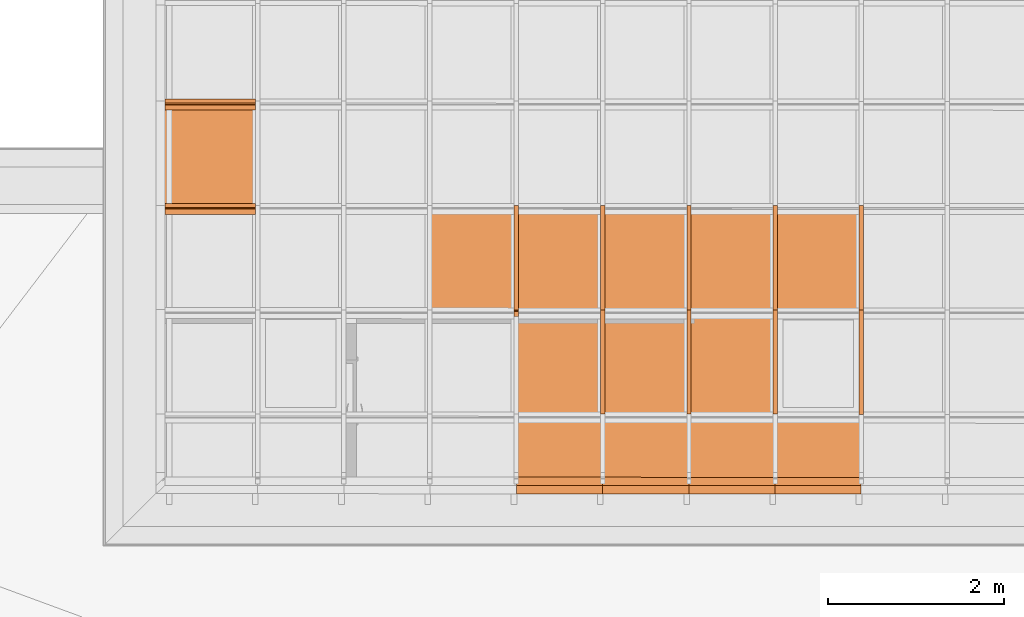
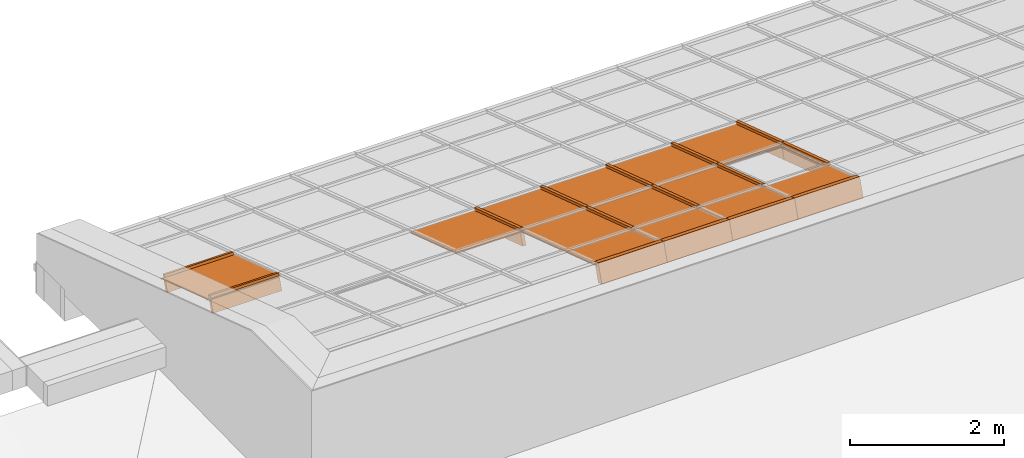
# One storey, part 31 of 47: 28 proxies, 1 element without a shape of its own.
"""IFC2X3 building model written with IfcOpenShell, lengths in millimetres."""

from ifc_helpers import new_model, entity, si_unit, converted_unit, derived_unit, money_unit, direction, frame, origin_with_axes, place, context, subcontext, project, spatial, polyline, outline, extrude, material, material_list, type_object, element, aggregate, save


model = new_model("IFC2X3")

# Units and contexts
model_context = context("Model", 3, precision=1e-05, world=origin_with_axes(), true_north=direction((0.0, 1.0)))
body_context = subcontext(model_context, "Body", "Model", "MODEL_VIEW")
ifc_project = project(units=[si_unit("LENGTHUNIT", "METRE", prefix="MILLI"), si_unit("AREAUNIT", "SQUARE_METRE"), si_unit("VOLUMEUNIT", "CUBIC_METRE"), converted_unit("PLANEANGLEUNIT", "DEGREE", entity("IfcPlaneAngleMeasure", 0.0174532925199), si_unit("PLANEANGLEUNIT", "RADIAN"), dimensions=[0, 0, 0, 0, 0, 0, 0]), si_unit("SOLIDANGLEUNIT", "STERADIAN"), money_unit("EUR"), converted_unit("TIMEUNIT", "Year", entity("IfcTimeMeasure", 31556926.0), si_unit("TIMEUNIT", "SECOND"), dimensions=[0, 0, 1, 0, 0, 0, 0]), si_unit("MASSUNIT", "GRAM", prefix="KILO"), si_unit("THERMODYNAMICTEMPERATUREUNIT", "DEGREE_CELSIUS"), si_unit("LUMINOUSINTENSITYUNIT", "LUMEN"), si_unit("ENERGYUNIT", "JOULE", prefix="MEGA"), derived_unit("THERMALCONDUCTANCEUNIT", [(si_unit("POWERUNIT", "WATT"), 1), (si_unit("LENGTHUNIT", "METRE"), -1), (si_unit("THERMODYNAMICTEMPERATUREUNIT", "KELVIN"), -1)]), derived_unit("SPECIFICHEATCAPACITYUNIT", [(si_unit("ENERGYUNIT", "JOULE"), 1), (si_unit("MASSUNIT", "GRAM", prefix="KILO"), -1), (si_unit("THERMODYNAMICTEMPERATUREUNIT", "KELVIN"), -1)]), derived_unit("MASSDENSITYUNIT", [(si_unit("MASSUNIT", "GRAM", prefix="KILO"), 1), (si_unit("VOLUMEUNIT", "CUBIC_METRE"), -1)])], contexts=[model_context])

# Site, building, storey
site_placement = place(None, origin_with_axes())
site = spatial("IfcSite", under=ifc_project, at=site_placement, Name="Site", CompositionType="ELEMENT")
building_placement = place(site_placement, origin_with_axes())
building = spatial("IfcBuilding", under=site, at=building_placement, Name="Building", CompositionType="ELEMENT")
storey_placement = place(building_placement, frame((0.0, 0.0, 6000.0), z_axis=(0.0, 0.0, 1.0), x_axis=(1.0, 0.0, 0.0)))
storey = spatial("IfcBuildingStorey", under=building, at=storey_placement, Name="KATUSEPLAAN", CompositionType="ELEMENT", Elevation=6000.0)

# Curtain wall, proxies
curtain_wall_type = type_object("IfcCurtainWallType", Name="KK-2", PredefinedType="NOTDEFINED")
curtain_wall_placement = place(storey_placement, frame((71638.1505463, 41358.6055567, 722.550081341), z_axis=(0.0, 0.0, 1.0), x_axis=(1.0, 0.0, 0.0)))
curtain_wall = element("IfcCurtainWall", 1, at=curtain_wall_placement, inside=storey, type_object=curtain_wall_type, Name="Talveaja klaaskatus")
ifc_material_1 = material(Name="Alumiinium (1)")
ifc_material_list = material_list([ifc_material_1, ifc_material_1])
building_element_proxy_type_1 = type_object("IfcBuildingElementProxyType", Name="Frame-Mll-588", PredefinedType="NOTDEFINED")
proxy_1_placement = place(curtain_wall_placement, frame((-3435.99854385, 2852.71260145, 1045.75100126), z_axis=(0.0, -0.950019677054, 0.312190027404), x_axis=(-0.999999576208, 0.000287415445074, 0.000874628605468)))
proxy_1 = element("IfcBuildingElementProxy", 2, at=proxy_1_placement, type_object=building_element_proxy_type_1, material=ifc_material_list, Name="Alumiinium (1);  Objekti nimi: Frame 22", context=body_context, shape_type="SweptSolid", body=[
    extrude(outline(polyline([(25.0091958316, 9.97697969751), (25.1841179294, 199.976899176), (-24.8158608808, 200.022931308), (-24.9907829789, 10.0230118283), (25.0091958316, 9.97697969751)])), frame((0.0, 4.54747350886e-10, -2.72848410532e-09), z_axis=(0.0, 0.0, 1.0), x_axis=(0.999999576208, 0.000920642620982, 0.0)), (0.0, 0.0, 1.0), 1250.0),
    extrude(outline(polyline([(-25.0091958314, -9.9769796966), (-25.0460215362, -49.976962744), (24.9539572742, -50.0229948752), (24.990782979, -10.0230118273), (-25.0091958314, -9.9769796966)])), frame((0.0, 4.54747350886e-10, -2.72848410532e-09), z_axis=(0.0, 0.0, 1.0), x_axis=(0.999999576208, 0.000920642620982, 0.0)), (0.0, 0.0, 1.0), 1250.0),
])
ifc_material_2 = material(Name="Klaas")
building_element_proxy_type_2 = type_object("IfcBuildingElementProxyType", Name="Panel-Main-223", PredefinedType="NOTDEFINED")
proxy_2_placement = place(curtain_wall_placement, frame((0.0, 0.0, 1979.86333452), z_axis=(0.0, 0.0, 1.0), x_axis=(-0.999995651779, 0.00294896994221, 0.0)))
proxy_2 = element("IfcBuildingElementProxy", 3, at=proxy_2_placement, type_object=building_element_proxy_type_2, material=ifc_material_2, Name="Klaas;  Objekti nimi: Built-in CW Panel", context=body_context, shape_type="SweptSolid", body=[
    extrude(outline(polyline([(494.147754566, -304.892907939), (496.403760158, 500.364911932), (491.403790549, 500.378899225), (491.417792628, 505.378898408), (-488.578350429, 508.124444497), (-488.59238208, 503.124474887), (-493.592336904, 503.138462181), (-495.848357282, -302.119357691), (-490.848372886, -302.133359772), (-490.792349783, -282.133422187), (489.20380806, -284.878968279), (489.147770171, -304.878905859), (494.147754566, -304.892907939)])), frame((0.0, -3.12191252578, 9.50019274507), z_axis=(0.0, 0.312191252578, -0.950019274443), x_axis=(1.0, 0.0, 0.0)), (0.0, 0.0, 1.0), 20.0000000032),
])
building_element_proxy_type_3 = type_object("IfcBuildingElementProxyType", Name="Panel-Dist-148", PredefinedType="NOTDEFINED")
proxy_3_placement = place(curtain_wall_placement, frame((-979.999584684, 2258.24441095, 1238.72168054), z_axis=(0.0, 0.0, 1.0), x_axis=(-0.999995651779, 0.00294896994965, 0.0)))
proxy_3 = element("IfcBuildingElementProxy", 4, at=proxy_3_placement, type_object=building_element_proxy_type_3, material=ifc_material_2, Name="Klaas;  Objekti nimi: Built-in CW Panel", context=body_context, shape_type="SweptSolid", body=[
    extrude(outline(polyline([(488.233079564, -631.370301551), (488.247078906, -626.370316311), (493.247082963, -626.384315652), (496.749044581, 623.610771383), (491.749059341, 623.624770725), (491.763077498, 628.624755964), (-488.233088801, 631.37030155), (-488.247088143, 626.370335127), (-493.247073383, 626.384334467), (-496.749035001, -623.610771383), (-491.749049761, -623.624770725), (-491.763067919, -628.624737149), (488.233079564, -631.370301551)])), frame((2.27373675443e-10, -3.12191252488, 9.50019274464), z_axis=(0.0, 0.312191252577, -0.950019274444), x_axis=(1.0, 0.0, 0.0)), (0.0, 0.0, 1.0), 20.0000000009),
])
building_element_proxy_type_4 = type_object("IfcBuildingElementProxyType", Name="Panel-Main-226", PredefinedType="NOTDEFINED")
proxy_4_placement = place(curtain_wall_placement, frame((-2944.49875215, 0.846294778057, 1982.43867845), z_axis=(0.0, 0.0, 1.0), x_axis=(-0.999995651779, 0.00294896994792, 0.0)))
proxy_4 = element("IfcBuildingElementProxy", 5, at=proxy_4_placement, type_object=building_element_proxy_type_4, material=ifc_material_2, Name="Klaas;  Objekti nimi: Built-in CW Panel", context=body_context, shape_type="SweptSolid", body=[
    extrude(outline(polyline([(495.647749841, -304.897103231), (497.903754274, 500.360706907), (492.903779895, 500.37470683), (492.917779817, 505.37469604), (-490.078357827, 508.128646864), (-490.092357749, 503.128672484), (-495.092346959, 503.142687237), (-497.348351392, -302.115152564), (-492.348377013, -302.129152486), (-492.292332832, -282.129225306), (490.703804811, -284.88319096), (490.647775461, -304.883103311), (495.647749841, -304.897103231)])), frame((0.0, -3.12191252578, 9.50019274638), z_axis=(0.0, 0.312191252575, -0.950019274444), x_axis=(1.0, 0.0, 0.0)), (0.0, 0.0, 1.0), 20.0000000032),
])
building_element_proxy_type_5 = type_object("IfcBuildingElementProxyType", Name="Panel-Dist-147", PredefinedType="NOTDEFINED")
proxy_5_placement = place(curtain_wall_placement, frame((-2944.49875215, 2258.8090386, 1240.43988843), z_axis=(0.0, 0.0, 1.0), x_axis=(-0.999995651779, 0.0029489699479, 0.0)))
proxy_5 = element("IfcBuildingElementProxy", 6, at=proxy_5_placement, type_object=building_element_proxy_type_5, material=ifc_material_2, Name="Klaas;  Objekti nimi: Built-in CW Panel", context=body_context, shape_type="SweptSolid", body=[
    extrude(outline(polyline([(489.733073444, -631.37450392), (489.747091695, -626.374523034), (494.747072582, -626.388522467), (498.249038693, 623.606567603), (493.249057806, 623.620567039), (493.263057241, 628.620547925), (-489.733083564, 631.374503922), (-489.747101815, 626.374523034), (-494.747082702, 626.388522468), (-498.249048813, -623.606567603), (-493.249067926, -623.620567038), (-493.26306736, -628.620547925), (489.733073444, -631.37450392)])), frame((0.0, -3.12191252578, 9.50019274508), z_axis=(0.0, 0.312191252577, -0.950019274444), x_axis=(1.0, 0.0, 0.0)), (0.0, 0.0, 1.0), 20.0000000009),
])
building_element_proxy_type_6 = type_object("IfcBuildingElementProxyType", Name="Panel-Main-169", PredefinedType="NOTDEFINED")
proxy_6_placement = place(curtain_wall_placement, frame((-979.999584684, 1070.71981464, 1628.95921479), z_axis=(0.0, 0.0, 1.0), x_axis=(-0.999995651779, 0.00294896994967, 0.0)))
proxy_6 = element("IfcBuildingElementProxy", 7, at=proxy_6_placement, type_object=building_element_proxy_type_6, material=ifc_material_2, Name="Klaas;  Objekti nimi: Built-in CW Panel", context=body_context, shape_type="SweptSolid", body=[
    extrude(outline(polyline([(488.233079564, -631.370301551), (488.247097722, -626.37031631), (493.247064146, -626.384334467), (496.749044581, 623.610771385), (491.74905934, 623.624770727), (491.763077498, 628.624755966), (-488.233069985, 631.370301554), (-488.247088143, 626.370316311), (-493.247073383, 626.384315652), (-496.749035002, -623.610752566), (-491.749049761, -623.624770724), (-491.763067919, -628.624755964), (488.233079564, -631.370301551)])), frame((0.0, -3.12191252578, 9.50019274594), z_axis=(0.0, 0.312191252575, -0.950019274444), x_axis=(1.0, 0.0, 0.0)), (0.0, 0.0, 1.0), 20.0000000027),
])
building_element_proxy_type_7 = type_object("IfcBuildingElementProxyType", Name="Panel-Main-171", PredefinedType="NOTDEFINED")
proxy_7_placement = place(curtain_wall_placement, frame((-2944.49875215, 1071.28444228, 1630.67742269), z_axis=(0.0, 0.0, 1.0), x_axis=(-0.999995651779, 0.0029489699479, 0.0)))
proxy_7 = element("IfcBuildingElementProxy", 8, at=proxy_7_placement, type_object=building_element_proxy_type_7, material=ifc_material_2, Name="Klaas;  Objekti nimi: Built-in CW Panel", context=body_context, shape_type="SweptSolid", body=[
    extrude(outline(polyline([(489.733073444, -631.37450392), (489.747091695, -626.374523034), (494.747072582, -626.388522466), (498.249038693, 623.606567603), (493.249057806, 623.620567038), (493.263057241, 628.620547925), (-489.733083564, 631.374503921), (-489.747101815, 626.374523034), (-494.747082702, 626.388522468), (-498.249048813, -623.606567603), (-493.249067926, -623.620567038), (-493.26306736, -628.620547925), (489.733073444, -631.37450392)])), frame((0.0, -3.12191252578, 9.50019274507), z_axis=(0.0, 0.312191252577, -0.950019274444), x_axis=(1.0, 0.0, 0.0)), (0.0, 0.0, 1.0), 20.0000000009),
])
building_element_proxy_type_8 = type_object("IfcBuildingElementProxyType", Name="Panel-Main-135", PredefinedType="NOTDEFINED")
proxy_8_placement = place(curtain_wall_placement, frame((-6931.87656995, 3447.47966937, 853.689830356), z_axis=(0.0, 0.0, 1.0), x_axis=(-0.999995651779, 0.00294896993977, 0.0)))
proxy_8 = element("IfcBuildingElementProxy", 9, at=proxy_8_placement, type_object=building_element_proxy_type_8, material=ifc_material_2, Name="Klaas;  Objekti nimi: Built-in CW Panel", context=body_context, shape_type="SweptSolid", body=[
    extrude(outline(polyline([(551.112347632, -631.546463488), (551.12635088, -626.546475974), (531.126419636, -626.49044416), (534.628417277, 623.504646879), (554.628329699, 623.448615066), (554.642332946, 628.448583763), (-551.11234458, 631.546463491), (-551.126347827, 626.546494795), (-556.126316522, 626.560498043), (-559.628314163, -623.434611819), (-554.628326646, -623.448615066), (-554.642329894, -628.448583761), (551.112347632, -631.546463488)])), frame((0.0, -3.12191252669, 9.50019274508), z_axis=(0.0, 0.312191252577, -0.950019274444), x_axis=(1.0, 0.0, 0.0)), (0.0, 0.0, 1.0), 20.0000000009),
])
building_element_proxy_type_9 = type_object("IfcBuildingElementProxyType", Name="Panel-Main-170", PredefinedType="NOTDEFINED")
proxy_9_placement = place(curtain_wall_placement, frame((-1961.49916873, 1071.0019129, 1629.81766277), z_axis=(0.0, 0.0, 1.0), x_axis=(-0.999995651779, 0.0029489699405, 0.0)))
proxy_9 = element("IfcBuildingElementProxy", 10, at=proxy_9_placement, type_object=building_element_proxy_type_9, material=ifc_material_2, Name="Klaas;  Objekti nimi: Built-in CW Panel", context=body_context, shape_type="SweptSolid", body=[
    extrude(outline(polyline([(489.73307344, -631.374503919), (489.747072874, -626.374523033), (494.747072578, -626.388522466), (498.249038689, 623.606567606), (493.249057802, 623.620567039), (493.263057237, 628.620547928), (-489.733083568, 631.374503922), (-489.747083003, 626.374523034), (-494.747045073, 626.38852247), (-498.249030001, -623.606567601), (-493.249049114, -623.620585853), (-493.263067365, -628.620547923), (489.73307344, -631.374503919)])), frame((0.0, -3.1219125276, 9.50019274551), z_axis=(0.0, 0.312191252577, -0.950019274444), x_axis=(1.0, 0.0, 0.0)), (0.0, 0.0, 1.0), 20.0000000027),
])
building_element_proxy_type_10 = type_object("IfcBuildingElementProxyType", Name="Panel-Main-181", PredefinedType="NOTDEFINED")
proxy_10_placement = place(curtain_wall_placement, frame((0.0, 2257.96274382, 1237.8645445), z_axis=(0.0, 0.0, 1.0), x_axis=(-0.999995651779, 0.00294896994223, 0.0)))
proxy_10 = element("IfcBuildingElementProxy", 11, at=proxy_10_placement, type_object=building_element_proxy_type_10, material=ifc_material_2, Name="Klaas;  Objekti nimi: Built-in CW Panel", context=body_context, shape_type="SweptSolid", body=[
    extrude(outline(polyline([(488.23307956, -631.370301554), (488.247097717, -626.370316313), (493.247064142, -626.38433447), (496.749044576, 623.610771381), (491.749059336, 623.624770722), (491.763077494, 628.624755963), (-488.233069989, 631.37030155), (-488.247088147, 626.370316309), (-493.247073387, 626.38431565), (-496.749035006, -623.610752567), (-491.749049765, -623.624770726), (-491.763067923, -628.624755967), (488.23307956, -631.370301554)])), frame((0.0, -3.12191252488, 9.50019274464), z_axis=(0.0, 0.312191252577, -0.950019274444), x_axis=(1.0, 0.0, 0.0)), (0.0, 0.0, 1.0), 20.0000000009),
])
building_element_proxy_type_11 = type_object("IfcBuildingElementProxyType", Name="Panel-Main-105", PredefinedType="NOTDEFINED")
proxy_11_placement = place(curtain_wall_placement, frame((-1961.49916873, 2258.52650921, 1239.58012851), z_axis=(0.0, 0.0, 1.0), x_axis=(-0.999995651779, 0.0029489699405, 0.0)))
proxy_11 = element("IfcBuildingElementProxy", 12, at=proxy_11_placement, type_object=building_element_proxy_type_11, material=ifc_material_2, Name="Klaas;  Objekti nimi: Built-in CW Panel", context=body_context, shape_type="SweptSolid", body=[
    extrude(outline(polyline([(489.73307344, -631.374503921), (489.747072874, -626.374523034), (494.747072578, -626.388522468), (498.249038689, 623.606567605), (493.249057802, 623.620567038), (493.263057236, 628.620547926), (-489.733083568, 631.374503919), (-489.747083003, 626.374523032), (-494.747045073, 626.388522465), (-498.249030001, -623.606567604), (-493.249049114, -623.620585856), (-493.263067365, -628.620547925), (489.73307344, -631.374503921)])), frame((0.0, -3.12191252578, 9.50019274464), z_axis=(0.0, 0.312191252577, -0.950019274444), x_axis=(1.0, 0.0, 0.0)), (0.0, 0.0, 1.0), 20.0000000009),
])
building_element_proxy_type_12 = type_object("IfcBuildingElementProxyType", Name="Panel-Main-104", PredefinedType="NOTDEFINED")
proxy_12_placement = place(curtain_wall_placement, frame((-3927.49833556, 2259.09156798, 1241.29964835), z_axis=(0.0, 0.0, 1.0), x_axis=(-0.999995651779, 0.00294896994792, 0.0)))
proxy_12 = element("IfcBuildingElementProxy", 13, at=proxy_12_placement, type_object=building_element_proxy_type_12, material=ifc_material_2, Name="Klaas;  Objekti nimi: Built-in CW Panel", context=body_context, shape_type="SweptSolid", body=[
    extrude(outline(polyline([(489.733073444, -631.374503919), (489.747072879, -626.374523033), (494.747072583, -626.388522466), (498.249038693, 623.606567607), (493.249057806, 623.620567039), (493.263057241, 628.620547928), (-489.733083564, 631.374503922), (-489.747082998, 626.374523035), (-494.747045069, 626.388522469), (-498.249029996, -623.606567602), (-493.249049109, -623.620585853), (-493.26306736, -628.620547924), (489.733073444, -631.374503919)])), frame((1.13686837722e-10, -3.12191252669, 9.50019274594), z_axis=(0.0, 0.312191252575, -0.950019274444), x_axis=(1.0, 0.0, 0.0)), (0.0, 0.0, 1.0), 20.0000000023),
])
building_element_proxy_type_13 = type_object("IfcBuildingElementProxyType", Name="Panel-Main-225", PredefinedType="NOTDEFINED")
proxy_13_placement = place(curtain_wall_placement, frame((-1961.49916873, 0.563765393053, 1981.57891853), z_axis=(0.0, 0.0, 1.0), x_axis=(-0.999995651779, 0.00294896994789, 0.0)))
proxy_13 = element("IfcBuildingElementProxy", 14, at=proxy_13_placement, type_object=building_element_proxy_type_13, material=ifc_material_2, Name="Klaas;  Objekti nimi: Built-in CW Panel", context=body_context, shape_type="SweptSolid", body=[
    extrude(outline(polyline([(495.647749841, -304.897118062), (497.903754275, 500.360706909), (492.903779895, 500.37470683), (492.917779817, 505.374696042), (-490.078357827, 508.128646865), (-490.092372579, 503.128657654), (-495.092346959, 503.142672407), (-497.348351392, -302.115137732), (-492.348377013, -302.129152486), (-492.292332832, -282.129240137), (490.703789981, -284.88319096), (490.647775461, -304.883103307), (495.647749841, -304.897118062)])), frame((1.13686837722e-10, -3.12191252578, 9.50019274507), z_axis=(0.0, 0.312191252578, -0.950019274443), x_axis=(1.0, 0.0, 0.0)), (0.0, 0.0, 1.0), 20.0000000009),
])
building_element_proxy_type_14 = type_object("IfcBuildingElementProxyType", Name="Panel-Main-224", PredefinedType="NOTDEFINED")
proxy_14_placement = place(curtain_wall_placement, frame((-979.999584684, 0.281667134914, 1980.72047056), z_axis=(0.0, 0.0, 1.0), x_axis=(-0.999995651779, 0.00294896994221, 0.0)))
proxy_14 = element("IfcBuildingElementProxy", 15, at=proxy_14_placement, type_object=building_element_proxy_type_14, material=ifc_material_2, Name="Klaas;  Objekti nimi: Built-in CW Panel", context=body_context, shape_type="SweptSolid", body=[
    extrude(outline(polyline([(494.147754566, -304.892907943), (496.403760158, 500.364911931), (491.403790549, 500.378899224), (491.417792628, 505.378898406), (-488.57835043, 508.124444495), (-488.592382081, 503.124474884), (-493.592336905, 503.138462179), (-495.848357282, -302.119357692), (-490.848372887, -302.133359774), (-490.792349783, -282.133422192), (489.203808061, -284.878968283), (489.147770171, -304.878905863), (494.147754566, -304.892907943)])), frame((0.0, -3.12191252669, 9.50019274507), z_axis=(0.0, 0.312191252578, -0.950019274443), x_axis=(1.0, 0.0, 0.0)), (0.0, 0.0, 1.0), 20.0000000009),
])
building_element_proxy_type_15 = type_object("IfcBuildingElementProxyType", Name="Frame-Mll-591", PredefinedType="NOTDEFINED")
proxy_15_placement = place(curtain_wall_placement, frame((-489.999792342, 2851.86587554, 1043.17434539), z_axis=(0.0, -0.950019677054, 0.312190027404), x_axis=(-0.999999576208, 0.000287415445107, 0.00087462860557)))
proxy_15 = element("IfcBuildingElementProxy", 16, at=proxy_15_placement, type_object=building_element_proxy_type_15, material=ifc_material_list, Name="Alumiinium (1);  Objekti nimi: Frame 22", context=body_context, shape_type="SweptSolid", body=[
    extrude(outline(polyline([(25.0091958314, 9.9769796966), (25.1841179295, 199.976899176), (-24.8158608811, 200.022931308), (-24.9907829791, 10.0230118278), (25.0091958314, 9.9769796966)])), frame((0.0, 0.0, -1.81898940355e-09), z_axis=(0.0, 0.0, 1.0), x_axis=(0.999999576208, 0.00092064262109, 0.0)), (0.0, 0.0, 1.0), 1250.0),
    extrude(outline(polyline([(-25.0091958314, -9.9769796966), (-25.0460215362, -49.9769627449), (24.9539572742, -50.0229948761), (24.9907829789, -10.0230118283), (-25.0091958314, -9.9769796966)])), frame((0.0, 0.0, -1.81898940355e-09), z_axis=(0.0, 0.0, 1.0), x_axis=(0.999999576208, 0.00092064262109, 0.0)), (0.0, 0.0, 1.0), 1250.0),
])
building_element_proxy_type_16 = type_object("IfcBuildingElementProxyType", Name="Frame-Mll-590", PredefinedType="NOTDEFINED")
proxy_16_placement = place(curtain_wall_placement, frame((-1469.99937703, 2852.14754268, 1044.03148143), z_axis=(0.0, -0.950019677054, 0.312190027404), x_axis=(-0.999999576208, 0.000287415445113, 0.000874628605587)))
proxy_16 = element("IfcBuildingElementProxy", 17, at=proxy_16_placement, type_object=building_element_proxy_type_16, material=ifc_material_list, Name="Alumiinium (1);  Objekti nimi: Frame 22", context=body_context, shape_type="SweptSolid", body=[
    extrude(outline(polyline([(25.0091958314, 9.9769796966), (25.1841179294, 199.976899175), (-24.8158608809, 200.022931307), (-24.990782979, 10.0230118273), (25.0091958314, 9.9769796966)])), frame((0.0, 0.0, 0.0), z_axis=(0.0, 0.0, 1.0), x_axis=(0.999999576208, 0.000920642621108, 0.0)), (0.0, 0.0, 1.0), 1250.0),
    extrude(outline(polyline([(-25.0091958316, -9.97697969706), (-25.0460215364, -49.9769627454), (24.9539572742, -50.0229948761), (24.9907829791, -10.0230118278), (-25.0091958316, -9.97697969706)])), frame((0.0, 0.0, 0.0), z_axis=(0.0, 0.0, 1.0), x_axis=(0.999999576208, 0.000920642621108, 0.0)), (0.0, 0.0, 1.0), 1250.0),
])
building_element_proxy_type_17 = type_object("IfcBuildingElementProxyType", Name="Frame-Mll-592", PredefinedType="NOTDEFINED")
proxy_17_placement = place(curtain_wall_placement, frame((489.999792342, 2851.58420841, 1042.31720936), z_axis=(0.0, -0.950019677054, 0.312190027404), x_axis=(-0.999999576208, 0.000287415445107, 0.00087462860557)))
proxy_17 = element("IfcBuildingElementProxy", 18, at=proxy_17_placement, type_object=building_element_proxy_type_17, material=ifc_material_list, Name="Alumiinium (1);  Objekti nimi: Frame 22", context=body_context, shape_type="SweptSolid", body=[
    extrude(outline(polyline([(25.0091958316, 9.9769796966), (25.1841179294, 199.976899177), (-24.8158608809, 200.022931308), (-24.990782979, 10.0230118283), (25.0091958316, 9.9769796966)])), frame((0.0, 4.54747350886e-10, -2.72848410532e-09), z_axis=(0.0, 0.0, 1.0), x_axis=(0.999999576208, 0.00092064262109, 0.0)), (0.0, 0.0, 1.0), 1250.0),
    extrude(outline(polyline([(-25.0091958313, -9.9769796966), (-25.0460215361, -49.9769627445), (24.9539572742, -50.0229948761), (24.990782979, -10.0230118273), (-25.0091958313, -9.9769796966)])), frame((0.0, 0.0, -1.81898940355e-09), z_axis=(0.0, 0.0, 1.0), x_axis=(0.999999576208, 0.00092064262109, 0.0)), (0.0, 0.0, 1.0), 1250.0),
])
building_element_proxy_type_18 = type_object("IfcBuildingElementProxyType", Name="Frame-Mll-589", PredefinedType="NOTDEFINED")
proxy_18_placement = place(curtain_wall_placement, frame((-2452.99896044, 2852.43007206, 1044.89124135), z_axis=(0.0, -0.950019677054, 0.312190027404), x_axis=(-0.999999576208, 0.000287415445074, 0.000874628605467)))
proxy_18 = element("IfcBuildingElementProxy", 19, at=proxy_18_placement, type_object=building_element_proxy_type_18, material=ifc_material_list, Name="Alumiinium (1);  Objekti nimi: Frame 22", context=body_context, shape_type="SweptSolid", body=[
    extrude(outline(polyline([(25.0091958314, 9.9769796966), (25.1841179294, 199.976899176), (-24.8158608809, 200.022931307), (-24.990782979, 10.0230118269), (25.0091958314, 9.9769796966)])), frame((0.0, -4.54747350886e-10, -1.81898940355e-09), z_axis=(0.0, 0.0, 1.0), x_axis=(0.999999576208, 0.000920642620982, 0.0)), (0.0, 0.0, 1.0), 1250.0),
    extrude(outline(polyline([(-25.0091958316, -9.97697969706), (-25.0460215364, -49.9769627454), (24.9539572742, -50.0229948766), (24.9907829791, -10.0230118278), (-25.0091958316, -9.97697969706)])), frame((0.0, -4.54747350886e-10, -1.81898940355e-09), z_axis=(0.0, 0.0, 1.0), x_axis=(0.999999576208, 0.000920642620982, 0.0)), (0.0, 0.0, 1.0), 1250.0),
])
building_element_proxy_type_19 = type_object("IfcBuildingElementProxyType", Name="Frame-Trs-195", PredefinedType="NOTDEFINED")
proxy_19_placement = place(curtain_wall_placement, frame((-7484.75584326, 4041.40087363, 659.054627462), z_axis=(0.999999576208, -0.000287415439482, -0.000874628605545), x_axis=(0.0, -0.950019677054, 0.312190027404)))
proxy_19 = element("IfcBuildingElementProxy", 20, at=proxy_19_placement, type_object=building_element_proxy_type_19, material=ifc_material_list, Name="Alumiinium (1);  Objekti nimi: Frame 22", context=body_context, shape_type="SweptSolid", body=[
    extrude(outline(polyline([(26.8723924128, 1.69544270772), (86.1885203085, 182.199173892), (38.6875384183, 197.808681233), (-20.6285894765, 17.3049500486), (26.8723924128, 1.69544270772)])), frame((0.0, 0.0, 50.0000000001), z_axis=(0.0, 0.0, 1.0), x_axis=(0.950019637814, 0.312190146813, 0.0)), (0.0, 0.0, 1.0), 1030.75901524),
    extrude(outline(polyline([(-26.8723924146, -1.69544270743), (-39.3599982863, -39.6962282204), (8.14098360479, -55.3057355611), (20.6285894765, -17.3049500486), (-26.8723924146, -1.69544270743)])), frame((0.0, 0.0, 49.9999999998), z_axis=(0.0, 0.0, 1.0), x_axis=(0.950019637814, 0.312190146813, 0.0)), (0.0, 0.0, 1.0), 1030.75901524),
])
building_element_proxy_type_20 = type_object("IfcBuildingElementProxyType", Name="Frame-Trs-266", PredefinedType="NOTDEFINED")
proxy_20_placement = place(curtain_wall_placement, frame((-7484.75584326, 2853.87627732, 1049.29216172), z_axis=(0.999999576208, -0.000287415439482, -0.000874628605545), x_axis=(0.0, -0.950019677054, 0.312190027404)))
proxy_20 = element("IfcBuildingElementProxy", 21, at=proxy_20_placement, type_object=building_element_proxy_type_20, material=ifc_material_list, Name="Alumiinium (1);  Objekti nimi: Frame 22", context=body_context, shape_type="SweptSolid", body=[
    extrude(outline(polyline([(26.8723924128, 1.69544270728), (86.1885203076, 182.199173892), (38.6875384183, 197.808681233), (-20.6285894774, 17.3049500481), (26.8723924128, 1.69544270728)])), frame((0.0, -4.54747350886e-10, 49.9999999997), z_axis=(0.0, 0.0, 1.0), x_axis=(0.950019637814, 0.312190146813, 0.0)), (0.0, 0.0, 1.0), 1030.75901524),
    extrude(outline(polyline([(-26.8723924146, -1.69544270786), (-39.3599982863, -39.6962282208), (8.14098360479, -55.3057355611), (20.6285894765, -17.3049500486), (-26.8723924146, -1.69544270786)])), frame((0.0, -4.54747350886e-10, 49.9999999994), z_axis=(0.0, 0.0, 1.0), x_axis=(0.950019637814, 0.312190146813, 0.0)), (0.0, 0.0, 1.0), 1030.75901524),
])
building_element_proxy_type_21 = type_object("IfcBuildingElementProxyType", Name="Frame-Mll-057", PredefinedType="NOTDEFINED")
proxy_21_placement = place(curtain_wall_placement, frame((-1469.99937703, 1664.62294637, 1434.26901568), z_axis=(0.0, -0.950019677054, 0.312190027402), x_axis=(-0.999999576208, 0.000287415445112, 0.000874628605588)))
proxy_21 = element("IfcBuildingElementProxy", 22, at=proxy_21_placement, type_object=building_element_proxy_type_21, material=ifc_material_list, Name="Alumiinium (1);  Objekti nimi: Frame 22", context=body_context, shape_type="SweptSolid", body=[
    extrude(outline(polyline([(25.0091958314, 9.97697969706), (25.1841179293, 199.976899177), (-24.8158608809, 200.022931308), (-24.990782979, 10.0230118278), (25.0091958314, 9.97697969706)])), frame((0.0, 0.0, -2.72848410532e-09), z_axis=(0.0, 0.0, 1.0), x_axis=(0.999999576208, 0.000920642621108, 0.0)), (0.0, 0.0, 1.0), 1250.00000001),
    extrude(outline(polyline([(-25.0091958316, -9.97697969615), (-25.0460215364, -49.9769627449), (24.9539572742, -50.0229948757), (24.9907829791, -10.0230118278), (-25.0091958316, -9.97697969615)])), frame((0.0, 0.0, -2.72848410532e-09), z_axis=(0.0, 0.0, 1.0), x_axis=(0.999999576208, 0.000920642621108, 0.0)), (0.0, 0.0, 1.0), 1250.00000001),
])
building_element_proxy_type_22 = type_object("IfcBuildingElementProxyType", Name="Frame-Mll-056", PredefinedType="NOTDEFINED")
proxy_22_placement = place(curtain_wall_placement, frame((-2452.99896044, 1664.90547574, 1435.1287756), z_axis=(0.0, -0.950019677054, 0.312190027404), x_axis=(-0.999999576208, 0.000287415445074, 0.000874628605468)))
proxy_22 = element("IfcBuildingElementProxy", 23, at=proxy_22_placement, type_object=building_element_proxy_type_22, material=ifc_material_list, Name="Alumiinium (1);  Objekti nimi: Frame 22", context=body_context, shape_type="SweptSolid", body=[
    extrude(outline(polyline([(25.0091958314, 9.9769796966), (25.1841179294, 199.976899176), (-24.8158608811, 200.022931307), (-24.9907829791, 10.0230118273), (25.0091958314, 9.9769796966)])), frame((0.0, -4.54747350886e-10, -1.81898940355e-09), z_axis=(0.0, 0.0, 1.0), x_axis=(0.999999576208, 0.000920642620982, 0.0)), (0.0, 0.0, 1.0), 1250.0),
    extrude(outline(polyline([(-25.0091958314, -9.97697969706), (-25.0460215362, -49.9769627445), (24.9539572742, -50.0229948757), (24.990782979, -10.0230118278), (-25.0091958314, -9.97697969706)])), frame((0.0, 0.0, -9.09494701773e-10), z_axis=(0.0, 0.0, 1.0), x_axis=(0.999999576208, 0.000920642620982, 0.0)), (0.0, 0.0, 1.0), 1250.0),
])
building_element_proxy_type_23 = type_object("IfcBuildingElementProxyType", Name="Frame-Mll-058", PredefinedType="NOTDEFINED")
proxy_23_placement = place(curtain_wall_placement, frame((-489.999792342, 1664.34127923, 1433.41187965), z_axis=(0.0, -0.950019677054, 0.312190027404), x_axis=(-0.999999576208, 0.000287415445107, 0.00087462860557)))
proxy_23 = element("IfcBuildingElementProxy", 24, at=proxy_23_placement, type_object=building_element_proxy_type_23, material=ifc_material_list, Name="Alumiinium (1);  Objekti nimi: Frame 22", context=body_context, shape_type="SweptSolid", body=[
    extrude(outline(polyline([(25.0091958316, 9.97697969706), (25.1841179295, 199.976899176), (-24.8158608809, 200.022931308), (-24.990782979, 10.0230118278), (25.0091958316, 9.97697969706)])), frame((0.0, 0.0, 0.0), z_axis=(0.0, 0.0, 1.0), x_axis=(0.999999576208, 0.00092064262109, 0.0)), (0.0, 0.0, 1.0), 1250.0),
    extrude(outline(polyline([(-25.0091958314, -9.97697969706), (-25.0460215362, -49.9769627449), (24.9539572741, -50.0229948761), (24.9907829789, -10.0230118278), (-25.0091958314, -9.97697969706)])), frame((0.0, 0.0, 0.0), z_axis=(0.0, 0.0, 1.0), x_axis=(0.999999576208, 0.00092064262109, 0.0)), (0.0, 0.0, 1.0), 1250.0),
])
building_element_proxy_type_24 = type_object("IfcBuildingElementProxyType", Name="Frame-Mll-059", PredefinedType="NOTDEFINED")
proxy_24_placement = place(curtain_wall_placement, frame((489.999792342, 1664.05961209, 1432.55474361), z_axis=(0.0, -0.950019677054, 0.312190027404), x_axis=(-0.999999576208, 0.000287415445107, 0.00087462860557)))
proxy_24 = element("IfcBuildingElementProxy", 25, at=proxy_24_placement, type_object=building_element_proxy_type_24, material=ifc_material_list, Name="Alumiinium (1);  Objekti nimi: Frame 22", context=body_context, shape_type="SweptSolid", body=[
    extrude(outline(polyline([(25.0091958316, 9.97697969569), (25.1841179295, 199.976899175), (-24.8158608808, 200.022931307), (-24.9907829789, 10.0230118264), (25.0091958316, 9.97697969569)])), frame((0.0, 0.0, 0.0), z_axis=(0.0, 0.0, 1.0), x_axis=(0.999999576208, 0.00092064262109, 0.0)), (0.0, 0.0, 1.0), 1250.0),
    extrude(outline(polyline([(-25.0091958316, -9.97697969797), (-25.0460215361, -49.9769627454), (24.9539572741, -50.0229948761), (24.990782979, -10.0230118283), (-25.0091958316, -9.97697969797)])), frame((0.0, -4.54747350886e-10, 1.81898940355e-09), z_axis=(0.0, 0.0, 1.0), x_axis=(0.999999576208, 0.00092064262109, 0.0)), (0.0, 0.0, 1.0), 1250.0),
])
building_element_proxy_type_25 = type_object("IfcBuildingElementProxyType", Name="Frame-Bnd-656", PredefinedType="NOTDEFINED")
proxy_25_placement = place(curtain_wall_placement, frame((489.999792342, -288.47875832, 2074.1867246), z_axis=(-0.999999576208, 0.00028741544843, 0.000874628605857), x_axis=(0.0, 0.950019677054, -0.312190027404)))
proxy_25 = element("IfcBuildingElementProxy", 26, at=proxy_25_placement, type_object=building_element_proxy_type_25, material=ifc_material_1, Name="Alumiinium (1);  Objekti nimi: Built-in Frame", context=body_context, shape_type="SweptSolid", body=[
    extrude(outline(polyline([(15.8784912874, 15.7439993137), (44.3790804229, 25.1097037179), (-30.5465548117, 253.114416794), (-125.548518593, 221.895402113), (-31.8914745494, -63.1104892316), (63.1104892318, -31.8914745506), (50.6228833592, 6.10931096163), (22.1222942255, -3.25639344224), (15.8784912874, 15.7439993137)])), frame((0.0, 0.0, -4.54747350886e-10), z_axis=(0.0, 0.0, 1.0), x_axis=(0.950019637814, -0.312190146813, 0.0)), (0.0, 0.0, 1.0), 980.000000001),
])
building_element_proxy_type_26 = type_object("IfcBuildingElementProxyType", Name="Frame-Bnd-657", PredefinedType="NOTDEFINED")
proxy_26_placement = place(curtain_wall_placement, frame((-489.999792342, -288.19709118, 2075.04386064), z_axis=(-0.999999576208, 0.000287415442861, 0.000874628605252), x_axis=(0.0, 0.950019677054, -0.312190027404)))
proxy_26 = element("IfcBuildingElementProxy", 27, at=proxy_26_placement, type_object=building_element_proxy_type_26, material=ifc_material_1, Name="Alumiinium (1);  Objekti nimi: Built-in Frame", context=body_context, shape_type="SweptSolid", body=[
    extrude(outline(polyline([(15.8784912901, 15.743999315), (44.3790804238, 25.1097037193), (-30.5465548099, 253.114416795), (-125.548518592, 221.895402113), (-31.8914745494, -63.1104892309), (63.1104892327, -31.8914745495), (50.6228833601, 6.10931096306), (22.1222942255, -3.25639344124), (15.8784912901, 15.743999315)])), frame((0.0, 0.0, -5.68434188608e-10), z_axis=(0.0, 0.0, 1.0), x_axis=(0.950019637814, -0.312190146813, 0.0)), (0.0, 0.0, 1.0), 980.000000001),
])
building_element_proxy_type_27 = type_object("IfcBuildingElementProxyType", Name="Frame-Bnd-658", PredefinedType="NOTDEFINED")
proxy_27_placement = place(curtain_wall_placement, frame((-1469.99937703, -287.915424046, 2075.90099667), z_axis=(-0.999999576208, 0.000287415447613, 0.000874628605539), x_axis=(0.0, 0.950019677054, -0.312190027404)))
proxy_27 = element("IfcBuildingElementProxy", 28, at=proxy_27_placement, type_object=building_element_proxy_type_27, material=ifc_material_1, Name="Alumiinium (1);  Objekti nimi: Built-in Frame", context=body_context, shape_type="SweptSolid", body=[
    extrude(outline(polyline([(15.8784912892, 15.7439993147), (44.379080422, 25.1097037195), (-30.5465548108, 253.114416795), (-125.548518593, 221.895402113), (-31.8914745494, -63.1104892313), (63.1104892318, -31.8914745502), (50.6228833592, 6.10931096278), (22.1222942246, -3.25639344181), (15.8784912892, 15.7439993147)])), frame((0.0, 0.0, -4.54747350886e-10), z_axis=(0.0, 0.0, 1.0), x_axis=(0.950019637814, -0.312190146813, 0.0)), (0.0, 0.0, 1.0), 983.000000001),
])
building_element_proxy_type_28 = type_object("IfcBuildingElementProxyType", Name="Frame-Bnd-659", PredefinedType="NOTDEFINED")
proxy_28_placement = place(curtain_wall_placement, frame((-2452.99896044, -287.632894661, 2076.76075659), z_axis=(-0.999999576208, 0.000287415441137, 0.00087462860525), x_axis=(0.0, 0.950019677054, -0.312190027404)))
proxy_28 = element("IfcBuildingElementProxy", 29, at=proxy_28_placement, type_object=building_element_proxy_type_28, material=ifc_material_1, Name="Alumiinium (1);  Objekti nimi: Built-in Frame", context=body_context, shape_type="SweptSolid", body=[
    extrude(outline(polyline([(15.8784912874, 15.7439993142), (44.3790804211, 25.1097037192), (-30.5465548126, 253.114416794), (-125.548518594, 221.895402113), (-31.8914745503, -63.1104892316), (63.1104892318, -31.8914745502), (50.6228833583, 6.10931096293), (22.1222942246, -3.25639344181), (15.8784912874, 15.7439993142)])), frame((0.0, 0.0, -3.41060513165e-10), z_axis=(0.0, 0.0, 1.0), x_axis=(0.950019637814, -0.312190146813, 0.0)), (0.0, 0.0, 1.0), 983.000000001),
])
aggregate(curtain_wall, [proxy_2, proxy_3, proxy_4, proxy_5, proxy_6, proxy_7, proxy_8, proxy_9, proxy_10, proxy_11, proxy_12, proxy_13, proxy_14, proxy_15, proxy_16, proxy_1, proxy_17, proxy_18, proxy_19, proxy_20, proxy_21, proxy_22, proxy_23, proxy_24, proxy_25, proxy_26, proxy_27, proxy_28])

save(model, "model.ifc")
